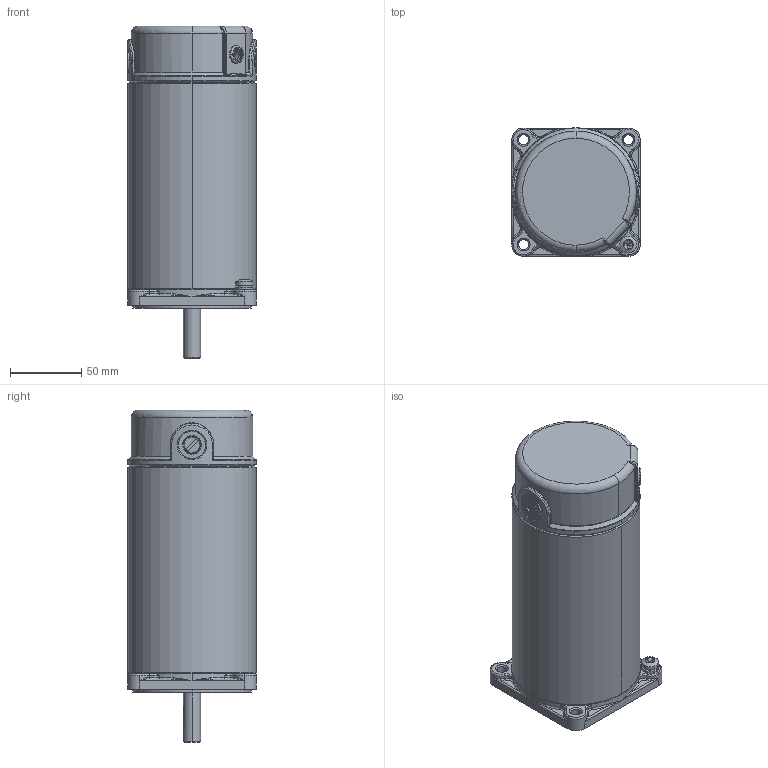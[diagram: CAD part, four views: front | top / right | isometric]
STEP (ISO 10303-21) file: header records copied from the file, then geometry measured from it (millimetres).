
FILE_DESCRIPTION (( 'STEP AP203' ), '1' );
FILE_NAME ('俋噤90嫖萇儂145儂褲.STEP', '2021-07-13T02:09:24', ( '' ), ( '' ), 'SwSTEP 2.0', 'SolidWorks 2021', '' );
FILE_SCHEMA (( 'CONFIG_CONTROL_DESIGN' ));
Length unit declared in the file: millimetre
Products named in the file (1): 俋噤90嫖萇儂145儂褲
Bounding box: 90 x 90 x 233 mm (x, y, z)
Surface area: 122410.4 mm2 (no closed solid volume)
Topology: 0 solids, 17 shells, 416 faces, 1020 edges, 619 vertices
Faces by surface type: cylinder 138, torus 78, plane 74, bspline 70, cone 56
Entity records: 21787 total; most frequent: CARTESIAN_POINT 12928, ORIENTED_EDGE 1897, DIRECTION 1617, EDGE_CURVE 1016, AXIS2_PLACEMENT_3D 672, VERTEX_POINT 619, EDGE_LOOP 445, ADVANCED_FACE 416
